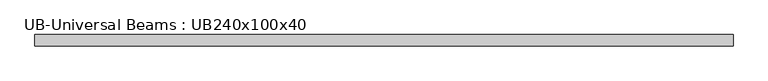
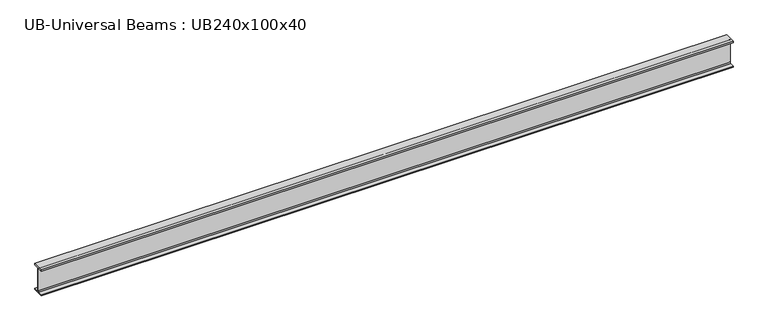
"""IFC4 building model written with IfcOpenShell, lengths in millimetres: beam geometry, UB-Universal Beams : UB240x100x40."""

from ifc_helpers import new_model, si_unit, point, frame, frame_2d, origin, place, context, project, spatial, polyline, circle_curve, trimmed, segment, composite_curve, outline, extrude, source, transform, mapped, element, save


def ub_universal_beams_ub240x100x40_e8e8a7e6(model_context):
    return source(origin(), model_context, "Body", "SweptSolid", [
        extrude(outline(composite_curve([segment(polyline([(-50.0, -109.8), (-11.9, -109.8)]), True, "CONTINUOUS"), segment(trimmed(circle_curve(frame_2d((-11.9, -100.9)), 8.9), [point((-11.9, -109.8))], [point((-3.0, -100.9))], True, "CARTESIAN"), True, "CONTINUOUS"), segment(polyline([(-3.0, -100.9), (-3.0, 100.9)]), True, "CONTINUOUS"), segment(trimmed(circle_curve(frame_2d((-11.9, 100.9)), 8.9), [point((-3.0, 100.9))], [point((-11.9, 109.8))], True, "CARTESIAN"), True, "CONTINUOUS"), segment(polyline([(-11.9, 109.8), (-50.0, 109.8), (-50.0, 120.0), (50.0, 120.0), (50.0, 109.8), (11.9, 109.8)]), True, "CONTINUOUS"), segment(trimmed(circle_curve(frame_2d((11.9, 100.9)), 8.9), [point((11.9, 109.8))], [point((3.0, 100.9))], True, "CARTESIAN"), True, "CONTINUOUS"), segment(polyline([(3.0, 100.9), (3.0, -100.9)]), True, "CONTINUOUS"), segment(trimmed(circle_curve(frame_2d((11.9, -100.9)), 8.9), [point((3.0, -100.9))], [point((11.9, -109.8))], True, "CARTESIAN"), True, "CONTINUOUS"), segment(polyline([(11.9, -109.8), (50.0, -109.8), (50.0, -120.0), (-50.0, -120.0), (-50.0, -109.8)]), True, "CONTINUOUS")], self_intersect=False)), frame((-3049.9, 0.0, 0.0), z_axis=(1.0, 0.0, 0.0), x_axis=(0.0, 1.0, 0.0)), (0.0, 0.0, 1.0), 6099.8),
    ])


if __name__ == "__main__":
    model = new_model("IFC4")
    model_context = context("Model", 3, world=origin())
    ifc_project = project(units=[si_unit("LENGTHUNIT", "METRE", prefix="MILLI")], contexts=[model_context])
    site = spatial("IfcSite", under=ifc_project)
    building = spatial("IfcBuilding", under=site)
    placement = place(None, origin())
    ub_universal_beams_ub240x100x40_shape = ub_universal_beams_ub240x100x40_e8e8a7e6(model_context)
    element("IfcBeam", 1, ObjectType="UB-Universal Beams : UB240x100x40", at=placement, inside=building, context=model_context, shape_type="MappedRepresentation", body=[
        mapped(ub_universal_beams_ub240x100x40_shape, transform((0.0, 0.0, 0.0), x_axis=(1.0, 0.0, 0.0), y_axis=(0.0, 1.0, 0.0), z_axis=(0.0, 0.0, 1.0))),
    ])
    save(model, "model.ifc")
